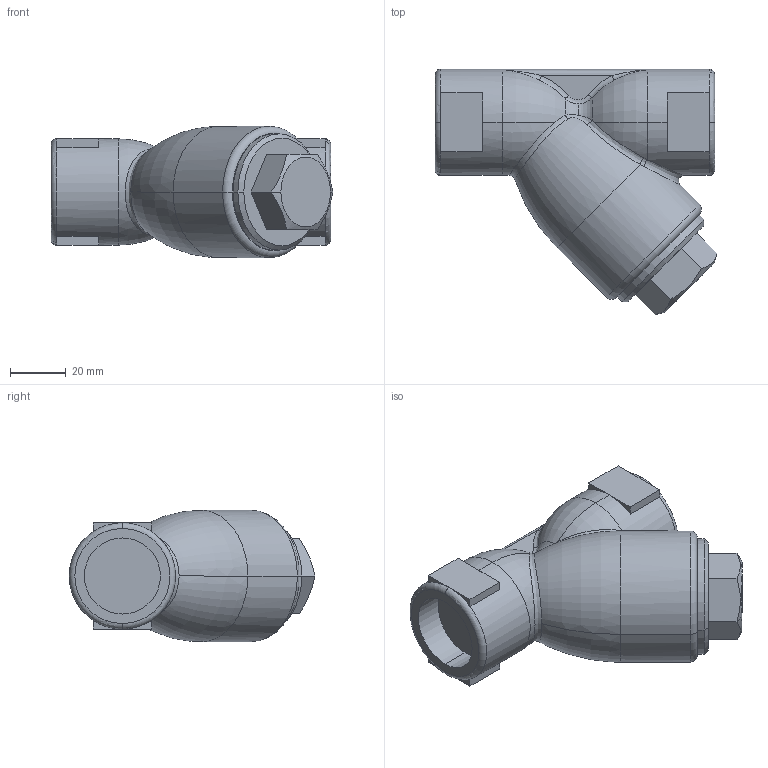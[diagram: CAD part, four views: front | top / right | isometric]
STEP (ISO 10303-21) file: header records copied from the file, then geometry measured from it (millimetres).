
FILE_DESCRIPTION (( 'STEP AP203' ), '1' );
FILE_NAME ('SY-17 20A.STEP', '2025-10-02T00:47:12', ( '' ), ( '' ), 'SwSTEP 2.0', 'SolidWorks 2024', '' );
FILE_SCHEMA (( 'CONFIG_CONTROL_DESIGN' ));
Length unit declared in the file: millimetre
Products named in the file (1): SY-17 20A
Bounding box: 100.81 x 87.81 x 47 mm (x, y, z)
Volume: 178285.3 mm3; surface area: 23881 mm2
Topology: 1 solids, 1 shells, 97 faces, 222 edges, 127 vertices
Faces by surface type: plane 43, torus 19, bspline 18, cylinder 13, cone 4
Entity records: 4314 total; most frequent: CARTESIAN_POINT 2198, ORIENTED_EDGE 436, DIRECTION 412, EDGE_CURVE 218, AXIS2_PLACEMENT_3D 166, VERTEX_POINT 127, EDGE_LOOP 101, ADVANCED_FACE 97
